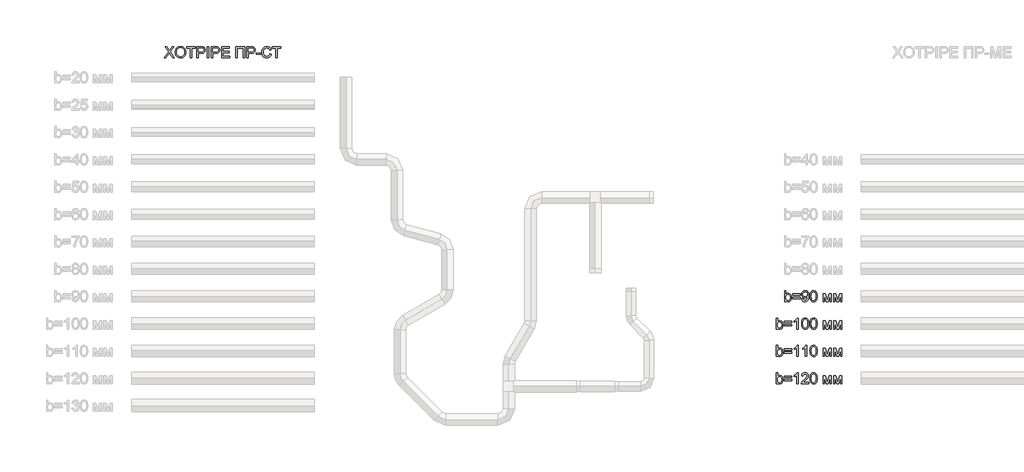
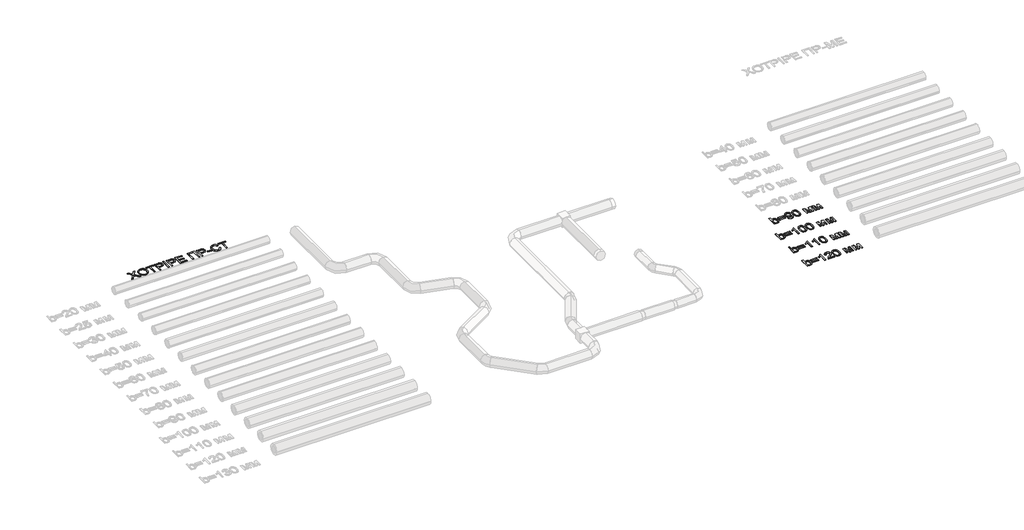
# One storey, part 66 of 86: 5 proxies.
"""IFC4 building model written with IfcOpenShell, lengths in millimetres."""

from ifc_helpers import new_model, si_unit, origin, origin_with_axes, place, context, project, spatial, polyline, outline, extrude, element, save

model = new_model("IFC4")

# Units and contexts
model_context = context("Model", 3, world=origin())
ifc_project = project(units=[si_unit("LENGTHUNIT", "METRE", prefix="MILLI")], contexts=[model_context])

# Site, building, storey
site = spatial("IfcSite", under=ifc_project)
building = spatial("IfcBuilding", under=site)
storey = spatial("IfcBuildingStorey", under=building, Name="Уровень 1", Elevation=0.0)

# Proxies
placement = place(None, origin())
element("IfcBuildingElementProxy", 1, Name="Текст модели 1", ObjectType="Текст модели 1", at=placement, inside=storey, context=model_context, shape_type="SweptSolid", body=[
    extrude(outline(polyline([(77079.5796766, 30543.2937088), (77311.9339448, 30871.7387541), (77117.2507929, 31146.0315697), (77207.602611, 31146.0315697), (77317.2314455, 30991.6682845), (77343.3878554, 30952.5624284), (77354.1667978, 30931.4827901), (77397.4297205, 30992.6983541), (77505.8813327, 31146.0315697), (77597.5575259, 31146.0315697), (77402.874374, 30870.8558373), (77635.2286422, 30543.2937088), (77544.8768241, 30543.2937088), (77390.0720806, 30761.6684611), (77357.8456178, 30806.9915229), (77322.3817935, 30757.2538772), (77171.2558698, 30543.2937088), (77079.5796766, 30543.2937088)])), origin_with_axes(), (0.0, 0.0, 1.0), 20.0),
    extrude(outline(polyline([(77682.3175375, 30836.7163882), (77687.3391268, 30907.4141106), (77702.4038945, 30970.000035), (77727.5118406, 31024.4741614), (77743.8320057, 31048.6693004), (77762.6629653, 31070.8364899), (77805.751144, 31107.8546156), (77854.6702523, 31134.2961341), (77909.4202902, 31150.1610451), (77970.0012578, 31155.4493488), (78010.5510507, 31152.9661453), (78049.0590985, 31145.5165349), (78085.5254013, 31133.1005176), (78119.949959, 31115.7180933), (78151.3670814, 31093.8934939), (78178.8110782, 31068.1509513), (78202.2819495, 31038.4904655), (78221.7796953, 31004.9120363), (78237.1019804, 30968.1790191), (78248.0464697, 30929.0547689), (78254.6131633, 30887.5392858), (78256.8020612, 30843.6325697), (78254.4982002, 30799.1464394), (78247.5866172, 30757.0699362), (78236.0673123, 30717.4030601), (78219.9402853, 30680.145811), (78199.5872139, 30646.2822733), (78175.3897757, 30616.7965314), (78147.3479706, 30591.6885853), (78115.4617987, 30570.9584348), (78080.9866572, 30554.7348388), (78045.1779435, 30543.146556), (78008.0356575, 30536.1935863), (77969.5597994, 30533.8759297), (77928.3018336, 30536.4373081), (77889.287948, 30544.1214433), (77852.5181426, 30556.9283352), (77817.9924174, 30574.857984), (77786.6120832, 30597.2160122), (77759.2784509, 30623.3080427), (77735.9915206, 30653.1340755), (77716.7512923, 30686.6941105), (77701.6865246, 30722.64078), (77690.9259762, 30759.6267161), (77684.4696472, 30797.6519188), (77682.3175375, 30836.7163882)]), holes=[polyline([(77757.6597702, 30835.9806242), (77761.4259621, 30786.0314463), (77772.7245379, 30741.6924688), (77791.5554975, 30702.9636918), (77817.918841, 30669.8451151), (77849.9659613, 30643.3208233), (77885.8482514, 30624.3749005), (77925.5657113, 30613.0073469), (77969.118341, 30609.2181623), (78013.4159317, 30613.0441351), (78053.6024412, 30624.5220533), (78089.6778693, 30643.6519171), (78121.6422162, 30670.4337263), (78147.8124216, 30704.2512787), (78166.5054255, 30744.488372), (78177.7212278, 30791.145006), (78181.4598286, 30844.2211809), (78179.8595419, 30878.7009209), (78175.0586819, 30910.9181866), (78167.0572485, 30940.872978), (78155.8552417, 30968.5652952), (78141.5768218, 30993.6318547), (78124.3461488, 31015.7093729), (78104.1632229, 31034.7978499), (78081.0280439, 31050.8972857), (78055.6579818, 31063.6765866), (78028.7704065, 31072.8046586), (78000.3653179, 31078.2815018), (77970.4427162, 31080.1071162), (77928.4030012, 31076.5892446), (77889.3983126, 31066.0356298), (77853.4286505, 31048.446272), (77820.4940149, 31023.8211709), (77793.0040328, 30990.9739073), (77773.3683313, 30948.7180616), (77761.5869105, 30897.0536339), (77757.6597702, 30835.9806242)])]), origin_with_axes(), (0.0, 0.0, 1.0), 20.0),
    extrude(outline(polyline([(78511.0820963, 30543.2937088), (78511.0820963, 31070.6893371), (78313.3087357, 31070.6893371), (78313.3087357, 31146.0315697), (78784.1976895, 31146.0315697), (78784.1976895, 31070.6893371), (78586.4243289, 31070.6893371), (78586.4243289, 30543.2937088), (78511.0820963, 30543.2937088)])), origin_with_axes(), (0.0, 0.0, 1.0), 20.0),
    extrude(outline(polyline([(78868.9577012, 30543.2937088), (78868.9577012, 31146.0315697), (79092.3356487, 31146.0315697), (79144.3541628, 31144.5968299), (79182.3931611, 31140.2926106), (79222.5474808, 31129.5688504), (79255.6016781, 31112.1128497), (79282.2179405, 31087.1336623), (79303.0584555, 31053.8403417), (79316.5229365, 31014.5689387), (79321.0110969, 30971.655504), (79317.9806689, 30934.6557723), (79308.8893851, 30900.6174907), (79293.7372454, 30869.5406592), (79272.5242499, 30841.4252777), (79243.4017914, 30818.1199533), (79204.5212631, 30801.473293), (79155.8826648, 30791.4852968), (79097.4859966, 30788.1559648), (78944.2999338, 30788.1559648), (78944.2999338, 30543.2937088), (78868.9577012, 30543.2937088)]), holes=[polyline([(78944.2999338, 30863.4981974), (79101.9005805, 30863.4981974), (79138.1369571, 30865.2272428), (79168.7079509, 30870.4143789), (79193.6135619, 30879.0596058), (79212.8537903, 30891.1629234), (79227.2103851, 30906.4024351), (79237.4650958, 30924.456244), (79243.6179221, 30945.3243502), (79245.6688642, 30969.0067536), (79240.831216, 31002.8518972), (79226.3182713, 31031.39954), (79203.9326519, 31052.8838485), (79175.4769796, 31065.5389892), (79146.4143019, 31069.4017501), (79100.134747, 31070.6893371), (78944.2999338, 31070.6893371), (78944.2999338, 30863.4981974)])]), origin_with_axes(), (0.0, 0.0, 1.0), 20.0),
    extrude(outline(polyline([(79434.0244458, 30543.2937088), (79434.0244458, 31146.0315697), (79509.3666784, 31146.0315697), (79509.3666784, 30543.2937088), (79434.0244458, 30543.2937088)])), origin_with_axes(), (0.0, 0.0, 1.0), 20.0),
    extrude(outline(polyline([(79660.0511436, 30543.2937088), (79660.0511436, 31146.0315697), (79883.4290911, 31146.0315697), (79935.4476052, 31144.5968299), (79973.4866035, 31140.2926106), (80013.6409233, 31129.5688504), (80046.6951205, 31112.1128497), (80073.3113829, 31087.1336623), (80094.1518979, 31053.8403417), (80107.6163789, 31014.5689387), (80112.1045393, 30971.655504), (80109.0741113, 30934.6557723), (80099.9828275, 30900.6174907), (80084.8306879, 30869.5406592), (80063.6176923, 30841.4252777), (80034.4952339, 30818.1199533), (79995.6147055, 30801.473293), (79946.9761072, 30791.4852968), (79888.579439, 30788.1559648), (79735.3933762, 30788.1559648), (79735.3933762, 30543.2937088), (79660.0511436, 30543.2937088)]), holes=[polyline([(79735.3933762, 30863.4981974), (79892.994023, 30863.4981974), (79929.2303995, 30865.2272428), (79959.8013933, 30870.4143789), (79984.7070044, 30879.0596058), (80003.9472327, 30891.1629234), (80018.3038276, 30906.4024351), (80028.5585382, 30924.456244), (80034.7113645, 30945.3243502), (80036.7623067, 30969.0067536), (80031.9246584, 31002.8518972), (80017.4117137, 31031.39954), (79995.0260943, 31052.8838485), (79966.570422, 31065.5389892), (79937.5077444, 31069.4017501), (79891.2281894, 31070.6893371), (79735.3933762, 31070.6893371), (79735.3933762, 30863.4981974)])]), origin_with_axes(), (0.0, 0.0, 1.0), 20.0),
    extrude(outline(polyline([(80215.7001091, 30543.2937088), (80215.7001091, 31146.0315697), (80648.9179466, 31146.0315697), (80648.9179466, 31070.6893371), (80291.0423417, 31070.6893371), (80291.0423417, 30891.7515346), (80630.0823885, 30891.7515346), (80630.0823885, 30816.409302), (80291.0423417, 30816.409302), (80291.0423417, 30618.6359414), (80658.3357257, 30618.6359414), (80658.3357257, 30543.2937088), (80215.7001091, 30543.2937088)])), origin_with_axes(), (0.0, 0.0, 1.0), 20.0),
    extrude(outline(polyline([(81006.7935516, 31146.0315697), (81477.6825054, 31146.0315697), (81477.6825054, 30543.2937088), (81402.3402728, 30543.2937088), (81402.3402728, 31070.6893371), (81082.1357842, 31070.6893371), (81082.1357842, 30543.2937088), (81006.7935516, 30543.2937088), (81006.7935516, 31146.0315697)])), origin_with_axes(), (0.0, 0.0, 1.0), 20.0),
    extrude(outline(polyline([(81609.5314125, 30543.2937088), (81609.5314125, 31146.0315697), (81832.9093599, 31146.0315697), (81884.927874, 31144.5968299), (81922.9668723, 31140.2926106), (81963.1211921, 31129.5688504), (81996.1753894, 31112.1128497), (82022.7916517, 31087.1336623), (82043.6321668, 31053.8403417), (82057.0966478, 31014.5689387), (82061.5848081, 30971.655504), (82058.5543802, 30934.6557723), (82049.4630964, 30900.6174907), (82034.3109567, 30869.5406592), (82013.0979612, 30841.4252777), (81983.9755027, 30818.1199533), (81945.0949744, 30801.473293), (81896.4563761, 30791.4852968), (81838.0597079, 30788.1559648), (81684.8736451, 30788.1559648), (81684.8736451, 30543.2937088), (81609.5314125, 30543.2937088)]), holes=[polyline([(81684.8736451, 30863.4981974), (81842.4742918, 30863.4981974), (81878.7106683, 30865.2272428), (81909.2816621, 30870.4143789), (81934.1872732, 30879.0596058), (81953.4275015, 30891.1629234), (81967.7840964, 30906.4024351), (81978.038807, 30924.456244), (81984.1916334, 30945.3243502), (81986.2425755, 30969.0067536), (81981.4049273, 31002.8518972), (81966.8919826, 31031.39954), (81944.5063632, 31052.8838485), (81916.0506908, 31065.5389892), (81886.9880132, 31069.4017501), (81840.7084582, 31070.6893371), (81684.8736451, 31070.6893371), (81684.8736451, 30863.4981974)])]), origin_with_axes(), (0.0, 0.0, 1.0), 20.0),
    extrude(outline(polyline([(82118.0914826, 30722.2315113), (82118.0914826, 30797.5737439), (82353.5359595, 30797.5737439), (82353.5359595, 30722.2315113), (82118.0914826, 30722.2315113)])), origin_with_axes(), (0.0, 0.0, 1.0), 20.0),
    extrude(outline(polyline([(82871.5138087, 30757.5481828), (82946.8560413, 30738.1240134), (82931.9476235, 30691.2696428), (82912.0911928, 30650.3289753), (82887.2867493, 30615.3020108), (82857.5342929, 30586.1887494), (82823.5052083, 30563.3018908), (82785.8708802, 30546.9541347), (82744.6313086, 30537.145481), (82699.7864934, 30533.8759297), (82653.8426307, 30536.3499361), (82612.3961254, 30543.7719554), (82575.4469775, 30556.1419875), (82542.995187, 30573.4600324), (82514.594697, 30595.4685728), (82489.7994505, 30621.9100912), (82468.6094476, 30652.7845876), (82451.0246882, 30688.0920621), (82437.2153178, 30726.3058043), (82427.3514818, 30765.8991041), (82421.4331802, 30806.8719613), (82419.460413, 30849.224376), (82421.6906976, 30894.6669994), (82428.3815514, 30937.1113846), (82439.5329744, 30976.5575316), (82455.1449666, 31013.0054402), (82474.86804, 31045.8527039), (82498.3527069, 31074.4969157), (82525.5989672, 31098.9380758), (82556.6068208, 31119.176184), (82590.3232057, 31135.0456936), (82625.6950595, 31146.3810576), (82662.7223823, 31153.182276), (82701.4051741, 31155.4493488), (82744.4979513, 31152.5154899), (82784.0130762, 31143.7139131), (82819.9505486, 31129.0446186), (82852.3103686, 31108.5076062), (82880.5591073, 31082.6455019), (82904.1633358, 31052.0009317), (82923.1230541, 31016.5738956), (82937.4382622, 30976.3643935), (82862.0960296, 30958.4117522), (82850.2318353, 30988.0400483), (82835.976408, 31013.3549281), (82819.3297477, 31034.3563915), (82800.2918544, 31051.0444385), (82778.7523636, 31063.75936), (82754.6009106, 31072.8414468), (82727.8374955, 31078.2906988), (82698.4621182, 31080.1071162), (82664.6629599, 31078.0929622), (82633.7516752, 31072.0505005), (82605.7282642, 31061.9797308), (82580.5927269, 31047.8806534), (82558.6623615, 31030.3878645), (82540.2544662, 31010.1359607), (82525.3690409, 30987.1249419), (82514.0060858, 30961.3548081), (82499.6035057, 30906.209297), (82494.8026456, 30849.3715288), (82500.4864225, 30779.7682553), (82507.5911435, 30748.4982857), (82517.5377529, 30719.5827609), (82530.4871992, 30693.5964965), (82546.6004306, 30671.114308), (82565.8774471, 30652.1361956), (82588.3182488, 30636.6621592), (82612.8329853, 30624.6554106), (82638.3318061, 30616.0791615), (82664.8147112, 30610.9334121), (82692.2817007, 30609.2181623), (82725.0369938, 30611.554213), (82755.1711277, 30618.562365), (82782.6841024, 30630.2426184), (82807.5759179, 30646.594973), (82829.257963, 30667.5458527), (82847.1416265, 30693.0216808), (82861.2269084, 30723.0224575), (82871.5138087, 30757.5481828)])), origin_with_axes(), (0.0, 0.0, 1.0), 20.0),
    extrude(outline(polyline([(83201.1360764, 30543.2937088), (83201.1360764, 31070.6893371), (83003.3627158, 31070.6893371), (83003.3627158, 31146.0315697), (83474.2516696, 31146.0315697), (83474.2516696, 31070.6893371), (83276.478309, 31070.6893371), (83276.478309, 30543.2937088), (83201.1360764, 30543.2937088)])), origin_with_axes(), (0.0, 0.0, 1.0), 20.0),
])
element("IfcBuildingElementProxy", 2, Name="Текст модели 1", ObjectType="Текст модели 1", at=placement, inside=storey, context=model_context, shape_type="SweptSolid", body=[
    extrude(outline(polyline([(111159.6307988, 17169.2937088), (111084.2885662, 17169.2937088), (111084.2885662, 17772.0315697), (111159.6307988, 17772.0315697), (111159.6307988, 17548.5064694), (111184.4076512, 17580.3742473), (111212.3850769, 17603.1369457), (111243.563076, 17616.7945648), (111277.9416484, 17621.3471045), (111316.7531989, 17617.2452202), (111353.4310339, 17604.9395675), (111385.8782258, 17585.2026984), (111411.9978475, 17558.8071653), (111432.4704805, 17526.0104854), (111447.9767066, 17487.0701762), (111457.7439736, 17443.6049185), (111460.9997292, 17397.233393), (111457.6290105, 17343.7249568), (111447.5168541, 17296.6544555), (111430.6632602, 17256.0218892), (111407.0682288, 17221.8272577), (111378.7459136, 17194.7235517), (111347.7104688, 17175.3637617), (111313.9618943, 17163.7478877), (111277.50019, 17159.8759297), (111241.9903805, 17164.8699278), (111210.5088787, 17179.8519221), (111183.0556848, 17204.8219125), (111159.6307988, 17239.7798991), (111159.6307988, 17169.2937088)]), holes=[polyline([(111159.6307988, 17393.7017259), (111164.7811467, 17330.8674811), (111171.2190816, 17307.065516), (111180.2321905, 17288.3403224), (111198.4883345, 17265.0993774), (111219.7059286, 17248.4987024), (111243.8849727, 17238.5382973), (111271.0254669, 17235.2181623), (111293.5582391, 17237.6645776), (111314.5091188, 17245.0038234), (111333.8781058, 17257.2358997), (111351.6652003, 17274.3608066), (111366.5368299, 17296.3325588), (111377.1594225, 17323.105171), (111383.5329781, 17354.6786432), (111385.6574966, 17391.0529755), (111383.6203501, 17428.1170865), (111377.5089104, 17459.9940614), (111367.3231777, 17486.6839001), (111353.0631519, 17508.1866028), (111335.9152524, 17524.7320955), (111317.0658986, 17536.5503046), (111296.5150907, 17543.64123), (111274.2628285, 17546.0048719), (111251.7300563, 17543.5584566), (111230.7791767, 17536.2192108), (111211.4101896, 17523.9871344), (111193.6230951, 17506.8622276), (111178.7514655, 17485.1112046), (111168.1288729, 17459.00078), (111161.7553173, 17428.5309538), (111159.6307988, 17393.7017259)])]), origin_with_axes(), (0.0, 0.0, 1.0), 20.0),
    extrude(outline(polyline([(111931.8886831, 17517.7515346), (111536.3419619, 17517.7515346), (111536.3419619, 17593.0937672), (111931.8886831, 17593.0937672), (111931.8886831, 17517.7515346)])), origin_with_axes(), (0.0, 0.0, 1.0), 20.0),
    extrude(outline(polyline([(111931.8886831, 17338.8137322), (111536.3419619, 17338.8137322), (111536.3419619, 17414.1559648), (111931.8886831, 17414.1559648), (111931.8886831, 17338.8137322)])), origin_with_axes(), (0.0, 0.0, 1.0), 20.0),
    extrude(outline(polyline([(112026.0664738, 17319.978174), (112101.4087064, 17329.3959531), (112114.2845763, 17286.6296712), (112123.7575377, 17270.3646884), (112135.25385, 17257.5118112), (112148.6447546, 17247.7583398), (112163.8014928, 17240.7915746), (112199.41247, 17235.2181623), (112231.3630212, 17238.8050118), (112260.4073048, 17249.5655601), (112284.5403636, 17266.322585), (112301.757241, 17287.898864), (112314.7986577, 17316.2625659), (112326.4053347, 17353.3818592), (112334.572315, 17395.9825942), (112337.2946418, 17440.7906212), (112336.8531834, 17455.505901), (112310.7519558, 17423.6473203), (112276.5941125, 17398.4106154), (112236.844463, 17381.9662902), (112193.9678164, 17376.4848485), (112158.1774968, 17379.8325746), (112125.2658538, 17389.8757531), (112095.2328875, 17406.6143839), (112068.0785977, 17430.048467), (112045.5780152, 17458.9547948), (112029.5061705, 17492.1101596), (112019.8630637, 17529.5145614), (112016.6486948, 17571.1680003), (112020.0194135, 17614.2101938), (112030.1315699, 17652.8378033), (112046.9851638, 17687.0508288), (112070.5801953, 17716.8492704), (112099.2519983, 17740.9915264), (112131.3359068, 17758.2359949), (112166.8319208, 17768.582676), (112205.7400403, 17772.0315697), (112234.4670256, 17770.063401), (112261.934015, 17764.158895), (112288.1410087, 17754.3180516), (112313.0880065, 17740.5408709), (112335.9426754, 17723.1216584), (112355.8726825, 17702.3547198), (112372.8780277, 17678.240055), (112386.9587111, 17650.7776641), (112397.9997695, 17618.3856544), (112405.8862398, 17579.4821334), (112410.6181219, 17534.0671011), (112412.195416, 17482.1405575), (112410.6227204, 17427.6066502), (112405.9046339, 17378.9312638), (112398.0411562, 17336.114398), (112387.0322875, 17299.1560531), (112372.9194145, 17267.154918), (112355.7439238, 17239.209682), (112335.5058156, 17215.3203449), (112312.2050897, 17195.4869069), (112286.3107957, 17179.9071044), (112258.2919833, 17168.778674), (112228.1486523, 17162.1016158), (112195.8808028, 17159.8759297), (112162.0448563, 17162.5016875), (112131.4646655, 17170.3789607), (112104.1402303, 17183.5077494), (112080.0715507, 17201.8880536), (112059.8656321, 17225.0232325), (112044.1294798, 17252.4166456), (112032.8630937, 17284.0682928), (112026.0664738, 17319.978174)]), holes=[polyline([(112336.8531834, 17572.9338339), (112334.8206353, 17599.9363724), (112328.7229913, 17623.9958548), (112318.5602511, 17645.1122814), (112304.332415, 17663.2856519), (112286.7384586, 17677.8997642), (112266.4773577, 17688.3384158), (112243.5491123, 17694.6016068), (112217.9537225, 17696.6893371), (112191.5397953, 17694.4406584), (112167.6274656, 17687.6946223), (112146.2167335, 17676.4512288), (112127.3075989, 17660.710478), (112111.8565551, 17641.3920747), (112100.8200953, 17619.415724), (112094.1982193, 17594.7814259), (112091.9909274, 17567.4891804), (112094.0786577, 17543.0112321), (112100.3418487, 17520.9337139), (112110.7805003, 17501.2566257), (112125.3946125, 17483.9799675), (112143.5771801, 17469.9130797), (112164.7211978, 17459.8653027), (112188.8266656, 17453.8366365), (112215.8935833, 17451.8270811), (112241.1348867, 17453.8366365), (112264.0309424, 17459.8653027), (112284.5817504, 17469.9130797), (112302.7873106, 17483.9799675), (112317.6911299, 17501.5969165), (112328.3367152, 17522.2948773), (112334.7240663, 17546.0738497), (112336.8531834, 17572.9338339)])]), origin_with_axes(), (0.0, 0.0, 1.0), 20.0),
    extrude(outline(polyline([(112478.1198695, 17465.8065969), (112483.6564935, 17562.2836501), (112490.5772736, 17603.1967265), (112500.2663656, 17639.2261694), (112512.682383, 17670.6662845), (112527.7839389, 17697.8113772), (112545.5710333, 17720.6614476), (112566.0436664, 17739.2164957), (112589.2708158, 17753.5730906), (112615.3214596, 17763.8278012), (112644.1955977, 17769.9806276), (112675.8932301, 17772.0315697), (112722.3199379, 17767.1755274), (112763.8906034, 17752.6074004), (112798.6554519, 17728.8974058), (112824.664709, 17696.6157607), (112844.3096075, 17656.0383766), (112859.9813805, 17607.4411651), (112870.2452882, 17545.7289604), (112873.6665907, 17465.8065969), (112868.185149, 17369.8813667), (112861.3333468, 17329.106246), (112851.7408238, 17293.1227884), (112839.4213755, 17261.6688778), (112824.3887975, 17234.4823983), (112806.6430897, 17211.56335), (112786.1842523, 17192.9117329), (112762.9295116, 17178.458569), (112736.7960944, 17168.1348805), (112707.7840006, 17161.9406674), (112675.8932301, 17159.8759297), (112634.3961411, 17163.4627792), (112597.6079415, 17174.2233275), (112565.5286316, 17192.1575748), (112538.1582111, 17217.265521), (112511.8914367, 17262.6529621), (112493.1294549, 17319.2056218), (112481.8722659, 17386.9235001), (112478.1198695, 17465.8065969)]), holes=[polyline([(112553.4621021, 17465.9537497), (112555.6693941, 17400.456959), (112562.29127, 17347.440565), (112573.3277299, 17306.9045676), (112588.7787737, 17278.848967), (112607.467179, 17259.7604899), (112628.2157235, 17246.1258635), (112651.0244072, 17237.9450876), (112675.8932301, 17235.2181623), (112700.762053, 17237.9542847), (112723.5707367, 17246.1626517), (112744.3192812, 17259.8432634), (112763.0076866, 17278.9961198), (112778.4587304, 17307.0977057), (112789.4951902, 17347.624506), (112796.1170661, 17400.5765206), (112798.3243581, 17465.9537497), (112796.1906425, 17529.7168965), (112789.7894958, 17581.79979), (112779.120918, 17622.2024301), (112764.184909, 17650.9248169), (112745.8092033, 17670.9467945), (112724.8215355, 17685.248207), (112701.2219055, 17693.8290546), (112675.0103133, 17696.6893371), (112650.2702492, 17694.1693454), (112627.8478415, 17686.6093704), (112607.7430905, 17674.0094121), (112589.955996, 17656.3694704), (112573.9899175, 17625.0995008), (112562.5855756, 17582.9402242), (112555.7429705, 17529.8916405), (112553.4621021, 17465.9537497)])]), origin_with_axes(), (0.0, 0.0, 1.0), 20.0),
    extrude(outline(polyline([(113193.8710793, 17611.9293254), (113323.5126944, 17611.9293254), (113423.4294443, 17257.5853876), (113531.1452925, 17611.9293254), (113655.3422541, 17611.9293254), (113655.3422541, 17169.2937088), (113580.0000215, 17169.2937088), (113580.0000215, 17525.6977857), (113471.6955621, 17169.2937088), (113372.8088818, 17169.2937088), (113269.2133119, 17542.7675103), (113269.2133119, 17169.2937088), (113193.8710793, 17169.2937088), (113193.8710793, 17611.9293254)])), origin_with_axes(), (0.0, 0.0, 1.0), 20.0),
    extrude(outline(polyline([(113768.355603, 17611.9293254), (113897.9972181, 17611.9293254), (113997.913968, 17257.5853876), (114105.6298162, 17611.9293254), (114229.8267777, 17611.9293254), (114229.8267777, 17169.2937088), (114154.4845451, 17169.2937088), (114154.4845451, 17525.6977857), (114046.1800857, 17169.2937088), (113947.2934054, 17169.2937088), (113843.6978356, 17542.7675103), (113843.6978356, 17169.2937088), (113768.355603, 17169.2937088), (113768.355603, 17611.9293254)])), origin_with_axes(), (0.0, 0.0, 1.0), 20.0),
])
element("IfcBuildingElementProxy", 3, Name="Текст модели 1", ObjectType="Текст модели 1", at=placement, inside=storey, context=model_context, shape_type="SweptSolid", body=[
    extrude(outline(polyline([(110698.159624, 15669.2937088), (110622.8173914, 15669.2937088), (110622.8173914, 16272.0315697), (110698.159624, 16272.0315697), (110698.159624, 16048.5064694), (110722.9364764, 16080.3742473), (110750.9139022, 16103.1369457), (110782.0919012, 16116.7945648), (110816.4704737, 16121.3471045), (110855.2820242, 16117.2452202), (110891.9598591, 16104.9395675), (110924.4070511, 16085.2026984), (110950.5266727, 16058.8071653), (110970.9993058, 16026.0104854), (110986.5055319, 15987.0701762), (110996.2727988, 15943.6049185), (110999.5285545, 15897.233393), (110996.1578357, 15843.7249568), (110986.0456794, 15796.6544555), (110969.1920855, 15756.0218892), (110945.597054, 15721.8272577), (110917.2747389, 15694.7235517), (110886.2392941, 15675.3637617), (110852.4907195, 15663.7478877), (110816.0290153, 15659.8759297), (110780.5192057, 15664.8699278), (110749.037704, 15679.8519221), (110721.5845101, 15704.8219125), (110698.159624, 15739.7798991), (110698.159624, 15669.2937088)]), holes=[polyline([(110698.159624, 15893.7017259), (110703.309972, 15830.8674811), (110709.7479069, 15807.065516), (110718.7610158, 15788.3403224), (110737.0171598, 15765.0993774), (110758.2347539, 15748.4987024), (110782.413798, 15738.5382973), (110809.5542922, 15735.2181623), (110832.0870644, 15737.6645776), (110853.037944, 15745.0038234), (110872.4069311, 15757.2358997), (110890.1940255, 15774.3608066), (110905.0656552, 15796.3325588), (110915.6882478, 15823.105171), (110922.0618034, 15854.6786432), (110924.1863219, 15891.0529755), (110922.1491753, 15928.1170865), (110916.0377357, 15959.9940614), (110905.8520029, 15986.6839001), (110891.5919771, 16008.1866028), (110874.4440776, 16024.7320955), (110855.5947239, 16036.5503046), (110835.0439159, 16043.64123), (110812.7916537, 16046.0048719), (110790.2588815, 16043.5584566), (110769.3080019, 16036.2192108), (110749.9390149, 16023.9871344), (110732.1519204, 16006.8622276), (110717.2802907, 15985.1112046), (110706.6576981, 15959.00078), (110700.2841426, 15928.5309538), (110698.159624, 15893.7017259)])]), origin_with_axes(), (0.0, 0.0, 1.0), 20.0),
    extrude(outline(polyline([(111470.4175083, 16017.7515346), (111074.8707871, 16017.7515346), (111074.8707871, 16093.0937672), (111470.4175083, 16093.0937672), (111470.4175083, 16017.7515346)])), origin_with_axes(), (0.0, 0.0, 1.0), 20.0),
    extrude(outline(polyline([(111470.4175083, 15838.8137322), (111074.8707871, 15838.8137322), (111074.8707871, 15914.1559648), (111470.4175083, 15914.1559648), (111470.4175083, 15838.8137322)])), origin_with_axes(), (0.0, 0.0, 1.0), 20.0),
    extrude(outline(polyline([(111837.7108923, 15669.2937088), (111762.3686597, 15669.2937088), (111762.3686597, 16139.0054402), (111730.9147491, 16113.5664003), (111690.9995526, 16088.1641485), (111649.0977934, 16065.9624701), (111611.6841945, 16050.1251502), (111611.6841945, 16121.3471045), (111670.8580134, 16153.5367791), (111722.1223694, 16191.8332947), (111762.5342066, 16232.5578316), (111789.1504689, 16272.0315697), (111837.7108923, 16272.0315697), (111837.7108923, 15669.2937088)])), origin_with_axes(), (0.0, 0.0, 1.0), 20.0),
    extrude(outline(polyline([(112016.6486948, 15965.8065969), (112022.1853188, 16062.2836501), (112029.1060988, 16103.1967265), (112038.7951909, 16139.2261694), (112051.2112082, 16170.6662845), (112066.3127641, 16197.8113772), (112084.0998586, 16220.6614476), (112104.5724916, 16239.2164957), (112127.7996411, 16253.5730906), (112153.8502849, 16263.8278012), (112182.724423, 16269.9806276), (112214.4220554, 16272.0315697), (112260.8487632, 16267.1755274), (112302.4194286, 16252.6074004), (112337.1842772, 16228.8974058), (112363.1935342, 16196.6157607), (112382.8384328, 16156.0383766), (112398.5102058, 16107.4411651), (112408.7741134, 16045.7289604), (112412.195416, 15965.8065969), (112406.7139742, 15869.8813667), (112399.8621721, 15829.106246), (112390.2696491, 15793.1227884), (112377.9502007, 15761.6688778), (112362.9176227, 15734.4823983), (112345.171915, 15711.56335), (112324.7130775, 15692.9117329), (112301.4583369, 15678.458569), (112275.3249197, 15668.1348805), (112246.3128258, 15661.9406674), (112214.4220554, 15659.8759297), (112172.9249663, 15663.4627792), (112136.1367668, 15674.2233275), (112104.0574568, 15692.1575748), (112076.6870364, 15717.265521), (112050.4202619, 15762.6529621), (112031.6582802, 15819.2056218), (112020.4010911, 15886.9235001), (112016.6486948, 15965.8065969)]), holes=[polyline([(112091.9909274, 15965.9537497), (112094.1982193, 15900.456959), (112100.8200953, 15847.440565), (112111.8565551, 15806.9045676), (112127.3075989, 15778.848967), (112145.9960043, 15759.7604899), (112166.7445488, 15746.1258635), (112189.5532325, 15737.9450876), (112214.4220554, 15735.2181623), (112239.2908782, 15737.9542847), (112262.0995619, 15746.1626517), (112282.8481065, 15759.8432634), (112301.5365118, 15778.9961198), (112316.9875556, 15807.0977057), (112328.0240155, 15847.624506), (112334.6458914, 15900.5765206), (112336.8531834, 15965.9537497), (112334.7194678, 16029.7168965), (112328.3183211, 16081.79979), (112317.6497432, 16122.2024301), (112302.7137342, 16150.9248169), (112284.3380285, 16170.9467945), (112263.3503607, 16185.248207), (112239.7507307, 16193.8290546), (112213.5391386, 16196.6893371), (112188.7990744, 16194.1693454), (112166.3766668, 16186.6093704), (112146.2719158, 16174.0094121), (112128.4848213, 16156.3694704), (112112.5187427, 16125.0995008), (112101.1144009, 16082.9402242), (112094.2717957, 16029.8916405), (112091.9909274, 15965.9537497)])]), origin_with_axes(), (0.0, 0.0, 1.0), 20.0),
    extrude(outline(polyline([(112478.1198695, 15965.8065969), (112483.6564935, 16062.2836501), (112490.5772736, 16103.1967265), (112500.2663656, 16139.2261694), (112512.682383, 16170.6662845), (112527.7839389, 16197.8113772), (112545.5710333, 16220.6614476), (112566.0436664, 16239.2164957), (112589.2708158, 16253.5730906), (112615.3214596, 16263.8278012), (112644.1955977, 16269.9806276), (112675.8932301, 16272.0315697), (112722.3199379, 16267.1755274), (112763.8906034, 16252.6074004), (112798.6554519, 16228.8974058), (112824.664709, 16196.6157607), (112844.3096075, 16156.0383766), (112859.9813805, 16107.4411651), (112870.2452882, 16045.7289604), (112873.6665907, 15965.8065969), (112868.185149, 15869.8813667), (112861.3333468, 15829.106246), (112851.7408238, 15793.1227884), (112839.4213755, 15761.6688778), (112824.3887975, 15734.4823983), (112806.6430897, 15711.56335), (112786.1842523, 15692.9117329), (112762.9295116, 15678.458569), (112736.7960944, 15668.1348805), (112707.7840006, 15661.9406674), (112675.8932301, 15659.8759297), (112634.3961411, 15663.4627792), (112597.6079415, 15674.2233275), (112565.5286316, 15692.1575748), (112538.1582111, 15717.265521), (112511.8914367, 15762.6529621), (112493.1294549, 15819.2056218), (112481.8722659, 15886.9235001), (112478.1198695, 15965.8065969)]), holes=[polyline([(112553.4621021, 15965.9537497), (112555.6693941, 15900.456959), (112562.29127, 15847.440565), (112573.3277299, 15806.9045676), (112588.7787737, 15778.848967), (112607.467179, 15759.7604899), (112628.2157235, 15746.1258635), (112651.0244072, 15737.9450876), (112675.8932301, 15735.2181623), (112700.762053, 15737.9542847), (112723.5707367, 15746.1626517), (112744.3192812, 15759.8432634), (112763.0076866, 15778.9961198), (112778.4587304, 15807.0977057), (112789.4951902, 15847.624506), (112796.1170661, 15900.5765206), (112798.3243581, 15965.9537497), (112796.1906425, 16029.7168965), (112789.7894958, 16081.79979), (112779.120918, 16122.2024301), (112764.184909, 16150.9248169), (112745.8092033, 16170.9467945), (112724.8215355, 16185.248207), (112701.2219055, 16193.8290546), (112675.0103133, 16196.6893371), (112650.2702492, 16194.1693454), (112627.8478415, 16186.6093704), (112607.7430905, 16174.0094121), (112589.955996, 16156.3694704), (112573.9899175, 16125.0995008), (112562.5855756, 16082.9402242), (112555.7429705, 16029.8916405), (112553.4621021, 15965.9537497)])]), origin_with_axes(), (0.0, 0.0, 1.0), 20.0),
    extrude(outline(polyline([(113193.8710793, 16111.9293254), (113323.5126944, 16111.9293254), (113423.4294443, 15757.5853876), (113531.1452925, 16111.9293254), (113655.3422541, 16111.9293254), (113655.3422541, 15669.2937088), (113580.0000215, 15669.2937088), (113580.0000215, 16025.6977857), (113471.6955621, 15669.2937088), (113372.8088818, 15669.2937088), (113269.2133119, 16042.7675103), (113269.2133119, 15669.2937088), (113193.8710793, 15669.2937088), (113193.8710793, 16111.9293254)])), origin_with_axes(), (0.0, 0.0, 1.0), 20.0),
    extrude(outline(polyline([(113768.355603, 16111.9293254), (113897.9972181, 16111.9293254), (113997.913968, 15757.5853876), (114105.6298162, 16111.9293254), (114229.8267777, 16111.9293254), (114229.8267777, 15669.2937088), (114154.4845451, 15669.2937088), (114154.4845451, 16025.6977857), (114046.1800857, 15669.2937088), (113947.2934054, 15669.2937088), (113843.6978356, 16042.7675103), (113843.6978356, 15669.2937088), (113768.355603, 15669.2937088), (113768.355603, 16111.9293254)])), origin_with_axes(), (0.0, 0.0, 1.0), 20.0),
])
element("IfcBuildingElementProxy", 4, Name="Текст модели 1", ObjectType="Текст модели 1", at=placement, inside=storey, context=model_context, shape_type="SweptSolid", body=[
    extrude(outline(polyline([(110698.159624, 14169.2937088), (110622.8173914, 14169.2937088), (110622.8173914, 14772.0315697), (110698.159624, 14772.0315697), (110698.159624, 14548.5064694), (110722.9364764, 14580.3742473), (110750.9139022, 14603.1369457), (110782.0919012, 14616.7945648), (110816.4704737, 14621.3471045), (110855.2820242, 14617.2452202), (110891.9598591, 14604.9395675), (110924.4070511, 14585.2026984), (110950.5266727, 14558.8071653), (110970.9993058, 14526.0104854), (110986.5055319, 14487.0701762), (110996.2727988, 14443.6049185), (110999.5285545, 14397.233393), (110996.1578357, 14343.7249568), (110986.0456794, 14296.6544555), (110969.1920855, 14256.0218892), (110945.597054, 14221.8272577), (110917.2747389, 14194.7235517), (110886.2392941, 14175.3637617), (110852.4907195, 14163.7478877), (110816.0290153, 14159.8759297), (110780.5192057, 14164.8699278), (110749.037704, 14179.8519221), (110721.5845101, 14204.8219125), (110698.159624, 14239.7798991), (110698.159624, 14169.2937088)]), holes=[polyline([(110698.159624, 14393.7017259), (110703.309972, 14330.8674811), (110709.7479069, 14307.065516), (110718.7610158, 14288.3403224), (110737.0171598, 14265.0993774), (110758.2347539, 14248.4987024), (110782.413798, 14238.5382973), (110809.5542922, 14235.2181623), (110832.0870644, 14237.6645776), (110853.037944, 14245.0038234), (110872.4069311, 14257.2358997), (110890.1940255, 14274.3608066), (110905.0656552, 14296.3325588), (110915.6882478, 14323.105171), (110922.0618034, 14354.6786432), (110924.1863219, 14391.0529755), (110922.1491753, 14428.1170865), (110916.0377357, 14459.9940614), (110905.8520029, 14486.6839001), (110891.5919771, 14508.1866028), (110874.4440776, 14524.7320955), (110855.5947239, 14536.5503046), (110835.0439159, 14543.64123), (110812.7916537, 14546.0048719), (110790.2588815, 14543.5584566), (110769.3080019, 14536.2192108), (110749.9390149, 14523.9871344), (110732.1519204, 14506.8622276), (110717.2802907, 14485.1112046), (110706.6576981, 14459.00078), (110700.2841426, 14428.5309538), (110698.159624, 14393.7017259)])]), origin_with_axes(), (0.0, 0.0, 1.0), 20.0),
    extrude(outline(polyline([(111470.4175083, 14517.7515346), (111074.8707871, 14517.7515346), (111074.8707871, 14593.0937672), (111470.4175083, 14593.0937672), (111470.4175083, 14517.7515346)])), origin_with_axes(), (0.0, 0.0, 1.0), 20.0),
    extrude(outline(polyline([(111470.4175083, 14338.8137322), (111074.8707871, 14338.8137322), (111074.8707871, 14414.1559648), (111470.4175083, 14414.1559648), (111470.4175083, 14338.8137322)])), origin_with_axes(), (0.0, 0.0, 1.0), 20.0),
    extrude(outline(polyline([(111837.7108923, 14169.2937088), (111762.3686597, 14169.2937088), (111762.3686597, 14639.0054402), (111730.9147491, 14613.5664003), (111690.9995526, 14588.1641485), (111649.0977934, 14565.9624701), (111611.6841945, 14550.1251502), (111611.6841945, 14621.3471045), (111670.8580134, 14653.5367791), (111722.1223694, 14691.8332947), (111762.5342066, 14732.5578316), (111789.1504689, 14772.0315697), (111837.7108923, 14772.0315697), (111837.7108923, 14169.2937088)])), origin_with_axes(), (0.0, 0.0, 1.0), 20.0),
    extrude(outline(polyline([(112299.1820671, 14169.2937088), (112223.8398344, 14169.2937088), (112223.8398344, 14639.0054402), (112192.3859239, 14613.5664003), (112152.4707274, 14588.1641485), (112110.5689681, 14565.9624701), (112073.1553692, 14550.1251502), (112073.1553692, 14621.3471045), (112132.3291881, 14653.5367791), (112183.5935442, 14691.8332947), (112224.0053813, 14732.5578316), (112250.6216437, 14772.0315697), (112299.1820671, 14772.0315697), (112299.1820671, 14169.2937088)])), origin_with_axes(), (0.0, 0.0, 1.0), 20.0),
    extrude(outline(polyline([(112478.1198695, 14465.8065969), (112483.6564935, 14562.2836501), (112490.5772736, 14603.1967265), (112500.2663656, 14639.2261694), (112512.682383, 14670.6662845), (112527.7839389, 14697.8113772), (112545.5710333, 14720.6614476), (112566.0436664, 14739.2164957), (112589.2708158, 14753.5730906), (112615.3214596, 14763.8278012), (112644.1955977, 14769.9806276), (112675.8932301, 14772.0315697), (112722.3199379, 14767.1755274), (112763.8906034, 14752.6074004), (112798.6554519, 14728.8974058), (112824.664709, 14696.6157607), (112844.3096075, 14656.0383766), (112859.9813805, 14607.4411651), (112870.2452882, 14545.7289604), (112873.6665907, 14465.8065969), (112868.185149, 14369.8813667), (112861.3333468, 14329.106246), (112851.7408238, 14293.1227884), (112839.4213755, 14261.6688778), (112824.3887975, 14234.4823983), (112806.6430897, 14211.56335), (112786.1842523, 14192.9117329), (112762.9295116, 14178.458569), (112736.7960944, 14168.1348805), (112707.7840006, 14161.9406674), (112675.8932301, 14159.8759297), (112634.3961411, 14163.4627792), (112597.6079415, 14174.2233275), (112565.5286316, 14192.1575748), (112538.1582111, 14217.265521), (112511.8914367, 14262.6529621), (112493.1294549, 14319.2056218), (112481.8722659, 14386.9235001), (112478.1198695, 14465.8065969)]), holes=[polyline([(112553.4621021, 14465.9537497), (112555.6693941, 14400.456959), (112562.29127, 14347.440565), (112573.3277299, 14306.9045676), (112588.7787737, 14278.848967), (112607.467179, 14259.7604899), (112628.2157235, 14246.1258635), (112651.0244072, 14237.9450876), (112675.8932301, 14235.2181623), (112700.762053, 14237.9542847), (112723.5707367, 14246.1626517), (112744.3192812, 14259.8432634), (112763.0076866, 14278.9961198), (112778.4587304, 14307.0977057), (112789.4951902, 14347.624506), (112796.1170661, 14400.5765206), (112798.3243581, 14465.9537497), (112796.1906425, 14529.7168965), (112789.7894958, 14581.79979), (112779.120918, 14622.2024301), (112764.184909, 14650.9248169), (112745.8092033, 14670.9467945), (112724.8215355, 14685.248207), (112701.2219055, 14693.8290546), (112675.0103133, 14696.6893371), (112650.2702492, 14694.1693454), (112627.8478415, 14686.6093704), (112607.7430905, 14674.0094121), (112589.955996, 14656.3694704), (112573.9899175, 14625.0995008), (112562.5855756, 14582.9402242), (112555.7429705, 14529.8916405), (112553.4621021, 14465.9537497)])]), origin_with_axes(), (0.0, 0.0, 1.0), 20.0),
    extrude(outline(polyline([(113193.8710793, 14611.9293254), (113323.5126944, 14611.9293254), (113423.4294443, 14257.5853876), (113531.1452925, 14611.9293254), (113655.3422541, 14611.9293254), (113655.3422541, 14169.2937088), (113580.0000215, 14169.2937088), (113580.0000215, 14525.6977857), (113471.6955621, 14169.2937088), (113372.8088818, 14169.2937088), (113269.2133119, 14542.7675103), (113269.2133119, 14169.2937088), (113193.8710793, 14169.2937088), (113193.8710793, 14611.9293254)])), origin_with_axes(), (0.0, 0.0, 1.0), 20.0),
    extrude(outline(polyline([(113768.355603, 14611.9293254), (113897.9972181, 14611.9293254), (113997.913968, 14257.5853876), (114105.6298162, 14611.9293254), (114229.8267777, 14611.9293254), (114229.8267777, 14169.2937088), (114154.4845451, 14169.2937088), (114154.4845451, 14525.6977857), (114046.1800857, 14169.2937088), (113947.2934054, 14169.2937088), (113843.6978356, 14542.7675103), (113843.6978356, 14169.2937088), (113768.355603, 14169.2937088), (113768.355603, 14611.9293254)])), origin_with_axes(), (0.0, 0.0, 1.0), 20.0),
])
element("IfcBuildingElementProxy", 5, Name="Текст модели 1", ObjectType="Текст модели 1", at=placement, inside=storey, context=model_context, shape_type="SweptSolid", body=[
    extrude(outline(polyline([(110698.159624, 12669.2937088), (110622.8173914, 12669.2937088), (110622.8173914, 13272.0315697), (110698.159624, 13272.0315697), (110698.159624, 13048.5064694), (110722.9364764, 13080.3742473), (110750.9139022, 13103.1369457), (110782.0919012, 13116.7945648), (110816.4704737, 13121.3471045), (110855.2820242, 13117.2452202), (110891.9598591, 13104.9395675), (110924.4070511, 13085.2026984), (110950.5266727, 13058.8071653), (110970.9993058, 13026.0104854), (110986.5055319, 12987.0701762), (110996.2727988, 12943.6049185), (110999.5285545, 12897.233393), (110996.1578357, 12843.7249568), (110986.0456794, 12796.6544555), (110969.1920855, 12756.0218892), (110945.597054, 12721.8272577), (110917.2747389, 12694.7235517), (110886.2392941, 12675.3637617), (110852.4907195, 12663.7478877), (110816.0290153, 12659.8759297), (110780.5192057, 12664.8699278), (110749.037704, 12679.8519221), (110721.5845101, 12704.8219125), (110698.159624, 12739.7798991), (110698.159624, 12669.2937088)]), holes=[polyline([(110698.159624, 12893.7017259), (110703.309972, 12830.8674811), (110709.7479069, 12807.065516), (110718.7610158, 12788.3403224), (110737.0171598, 12765.0993774), (110758.2347539, 12748.4987024), (110782.413798, 12738.5382973), (110809.5542922, 12735.2181623), (110832.0870644, 12737.6645776), (110853.037944, 12745.0038234), (110872.4069311, 12757.2358997), (110890.1940255, 12774.3608066), (110905.0656552, 12796.3325588), (110915.6882478, 12823.105171), (110922.0618034, 12854.6786432), (110924.1863219, 12891.0529755), (110922.1491753, 12928.1170865), (110916.0377357, 12959.9940614), (110905.8520029, 12986.6839001), (110891.5919771, 13008.1866028), (110874.4440776, 13024.7320955), (110855.5947239, 13036.5503046), (110835.0439159, 13043.64123), (110812.7916537, 13046.0048719), (110790.2588815, 13043.5584566), (110769.3080019, 13036.2192108), (110749.9390149, 13023.9871344), (110732.1519204, 13006.8622276), (110717.2802907, 12985.1112046), (110706.6576981, 12959.00078), (110700.2841426, 12928.5309538), (110698.159624, 12893.7017259)])]), origin_with_axes(), (0.0, 0.0, 1.0), 20.0),
    extrude(outline(polyline([(111470.4175083, 13017.7515346), (111074.8707871, 13017.7515346), (111074.8707871, 13093.0937672), (111470.4175083, 13093.0937672), (111470.4175083, 13017.7515346)])), origin_with_axes(), (0.0, 0.0, 1.0), 20.0),
    extrude(outline(polyline([(111470.4175083, 12838.8137322), (111074.8707871, 12838.8137322), (111074.8707871, 12914.1559648), (111470.4175083, 12914.1559648), (111470.4175083, 12838.8137322)])), origin_with_axes(), (0.0, 0.0, 1.0), 20.0),
    extrude(outline(polyline([(111837.7108923, 12669.2937088), (111762.3686597, 12669.2937088), (111762.3686597, 13139.0054402), (111730.9147491, 13113.5664003), (111690.9995526, 13088.1641485), (111649.0977934, 13065.9624701), (111611.6841945, 13050.1251502), (111611.6841945, 13121.3471045), (111670.8580134, 13153.5367791), (111722.1223694, 13191.8332947), (111762.5342066, 13232.5578316), (111789.1504689, 13272.0315697), (111837.7108923, 13272.0315697), (111837.7108923, 12669.2937088)])), origin_with_axes(), (0.0, 0.0, 1.0), 20.0),
    extrude(outline(polyline([(112402.7776369, 12744.6359414), (112402.7776369, 12669.2937088), (112007.2309157, 12669.2937088), (112008.8863847, 12695.8180007), (112015.3243196, 12721.2386465), (112033.9023603, 12761.8344247), (112061.0888398, 12801.2161923), (112100.4154251, 12842.4373698), (112155.4137833, 12888.5513779), (112236.7157043, 12960.7666136), (112285.4968568, 13014.0727147), (112299.724693, 13035.8513288), (112309.8874331, 13057.3356373), (112315.9850772, 13078.5256402), (112318.0176252, 13099.4213376), (112316.1000403, 13119.0800317), (112310.3472856, 13137.1476362), (112300.7593611, 13153.624151), (112287.3362668, 13168.5095763), (112270.8229638, 13180.8382216), (112251.964413, 13189.6443969), (112230.7606145, 13194.928102), (112207.2115683, 13196.6893371), (112182.4025262, 13194.9694888), (112160.2146434, 13189.8099438), (112140.6479198, 13181.2107021), (112123.7023554, 13169.1717638), (112109.9941525, 13154.0977991), (112100.1395136, 13136.3934781), (112094.1384385, 13116.0588008), (112091.9909274, 13093.0937672), (112016.6486948, 13102.5115463), (112023.1280164, 13141.4058703), (112034.9140358, 13175.3889696), (112052.006753, 13204.4608442), (112074.406168, 13228.6214943), (112101.597246, 13247.6134023), (112133.0649521, 13261.1790508), (112168.8092865, 13269.31844), (112208.830249, 13272.0315697), (112249.2098965, 13269.0149373), (112285.1473689, 13259.9650403), (112316.6426662, 13244.8818785), (112343.6957885, 13223.7654519), (112365.4238188, 13198.1792592), (112380.9438405, 13169.6867986), (112390.2558535, 13138.2880703), (112393.3598578, 13103.9830743), (112390.0121317, 13067.9490329), (112379.9689532, 13032.5403908), (112362.1450705, 12996.5247435), (112335.4552318, 12958.6696862), (112292.909679, 12913.4753831), (112227.5186544, 12855.4419984), (112140.8456563, 12782.9692453), (112106.85336, 12744.6359414), (112402.7776369, 12744.6359414)])), origin_with_axes(), (0.0, 0.0, 1.0), 20.0),
    extrude(outline(polyline([(112478.1198695, 12965.8065969), (112483.6564935, 13062.2836501), (112490.5772736, 13103.1967265), (112500.2663656, 13139.2261694), (112512.682383, 13170.6662845), (112527.7839389, 13197.8113772), (112545.5710333, 13220.6614476), (112566.0436664, 13239.2164957), (112589.2708158, 13253.5730906), (112615.3214596, 13263.8278012), (112644.1955977, 13269.9806276), (112675.8932301, 13272.0315697), (112722.3199379, 13267.1755274), (112763.8906034, 13252.6074004), (112798.6554519, 13228.8974058), (112824.664709, 13196.6157607), (112844.3096075, 13156.0383766), (112859.9813805, 13107.4411651), (112870.2452882, 13045.7289604), (112873.6665907, 12965.8065969), (112868.185149, 12869.8813667), (112861.3333468, 12829.106246), (112851.7408238, 12793.1227884), (112839.4213755, 12761.6688778), (112824.3887975, 12734.4823983), (112806.6430897, 12711.56335), (112786.1842523, 12692.9117329), (112762.9295116, 12678.458569), (112736.7960944, 12668.1348805), (112707.7840006, 12661.9406674), (112675.8932301, 12659.8759297), (112634.3961411, 12663.4627792), (112597.6079415, 12674.2233275), (112565.5286316, 12692.1575748), (112538.1582111, 12717.265521), (112511.8914367, 12762.6529621), (112493.1294549, 12819.2056218), (112481.8722659, 12886.9235001), (112478.1198695, 12965.8065969)]), holes=[polyline([(112553.4621021, 12965.9537497), (112555.6693941, 12900.456959), (112562.29127, 12847.440565), (112573.3277299, 12806.9045676), (112588.7787737, 12778.848967), (112607.467179, 12759.7604899), (112628.2157235, 12746.1258635), (112651.0244072, 12737.9450876), (112675.8932301, 12735.2181623), (112700.762053, 12737.9542847), (112723.5707367, 12746.1626517), (112744.3192812, 12759.8432634), (112763.0076866, 12778.9961198), (112778.4587304, 12807.0977057), (112789.4951902, 12847.624506), (112796.1170661, 12900.5765206), (112798.3243581, 12965.9537497), (112796.1906425, 13029.7168965), (112789.7894958, 13081.79979), (112779.120918, 13122.2024301), (112764.184909, 13150.9248169), (112745.8092033, 13170.9467945), (112724.8215355, 13185.248207), (112701.2219055, 13193.8290546), (112675.0103133, 13196.6893371), (112650.2702492, 13194.1693454), (112627.8478415, 13186.6093704), (112607.7430905, 13174.0094121), (112589.955996, 13156.3694704), (112573.9899175, 13125.0995008), (112562.5855756, 13082.9402242), (112555.7429705, 13029.8916405), (112553.4621021, 12965.9537497)])]), origin_with_axes(), (0.0, 0.0, 1.0), 20.0),
    extrude(outline(polyline([(113193.8710793, 13111.9293254), (113323.5126944, 13111.9293254), (113423.4294443, 12757.5853876), (113531.1452925, 13111.9293254), (113655.3422541, 13111.9293254), (113655.3422541, 12669.2937088), (113580.0000215, 12669.2937088), (113580.0000215, 13025.6977857), (113471.6955621, 12669.2937088), (113372.8088818, 12669.2937088), (113269.2133119, 13042.7675103), (113269.2133119, 12669.2937088), (113193.8710793, 12669.2937088), (113193.8710793, 13111.9293254)])), origin_with_axes(), (0.0, 0.0, 1.0), 20.0),
    extrude(outline(polyline([(113768.355603, 13111.9293254), (113897.9972181, 13111.9293254), (113997.913968, 12757.5853876), (114105.6298162, 13111.9293254), (114229.8267777, 13111.9293254), (114229.8267777, 12669.2937088), (114154.4845451, 12669.2937088), (114154.4845451, 13025.6977857), (114046.1800857, 12669.2937088), (113947.2934054, 12669.2937088), (113843.6978356, 13042.7675103), (113843.6978356, 12669.2937088), (113768.355603, 12669.2937088), (113768.355603, 13111.9293254)])), origin_with_axes(), (0.0, 0.0, 1.0), 20.0),
])

save(model, "model.ifc")
